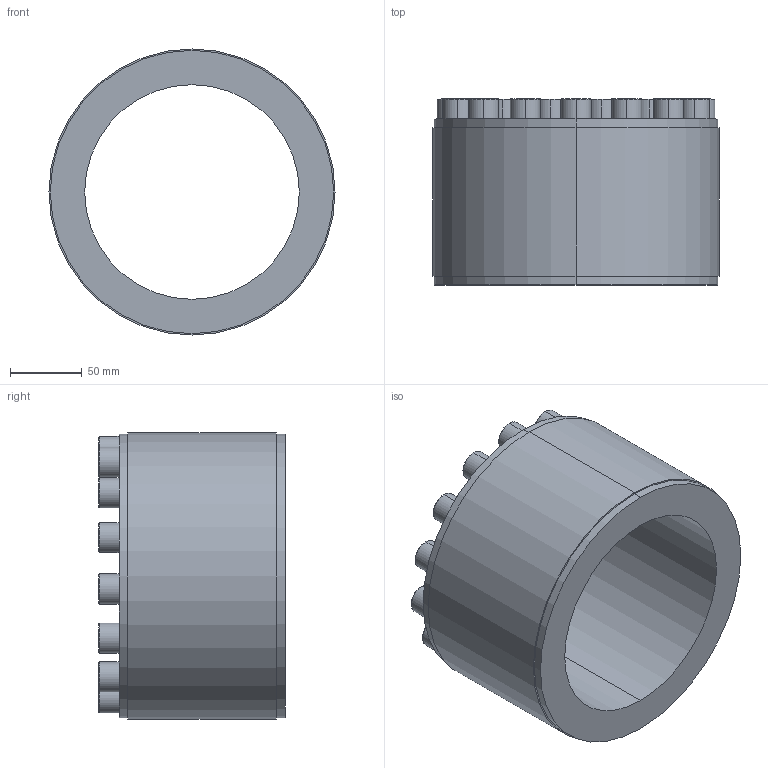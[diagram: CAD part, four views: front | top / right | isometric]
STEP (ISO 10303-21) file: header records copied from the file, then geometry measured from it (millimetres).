
FILE_DESCRIPTION (( 'STEP AP203' ), '1' );
FILE_NAME ('PL-D1 150-200.STEP', '2021-10-23T00:19:47', ( '' ), ( '' ), 'SwSTEP 2.0', 'SolidWorks 2018', '' );
FILE_SCHEMA (( 'CONFIG_CONTROL_DESIGN' ));
Length unit declared in the file: millimetre
Products named in the file (1): PL-D1 150-200
Bounding box: 200 x 130 x 200 mm (x, y, z)
Volume: 1646445 mm3; surface area: 172967.4 mm2
Topology: 1 solids, 1 shells, 192 faces, 444 edges, 286 vertices
Faces by surface type: plane 124, cylinder 38, torus 30
Entity records: 5505 total; most frequent: DIRECTION 966, CARTESIAN_POINT 923, ORIENTED_EDGE 888, EDGE_CURVE 444, AXIS2_PLACEMENT_3D 329, VECTOR 308, LINE 308, VERTEX_POINT 286
